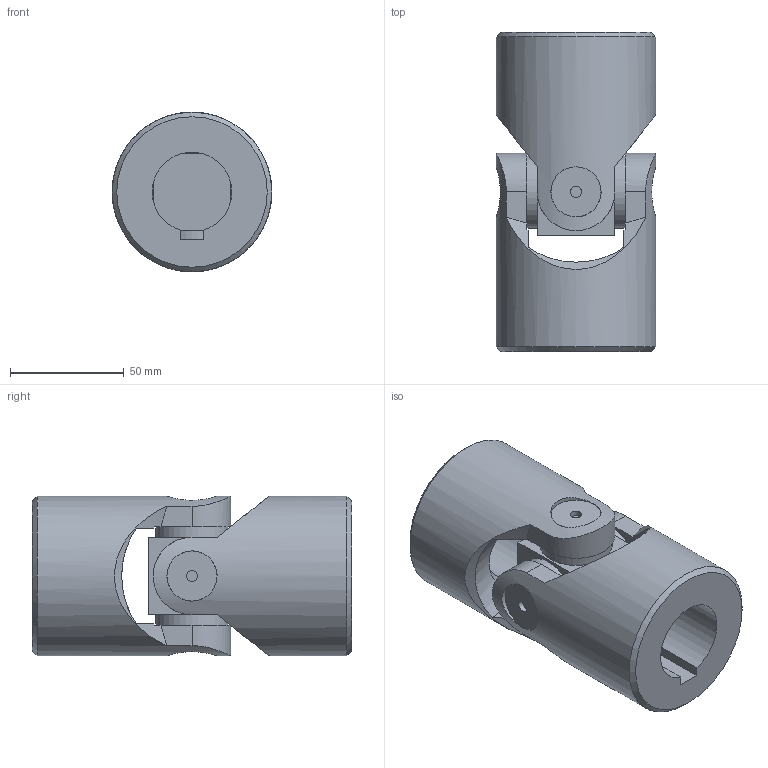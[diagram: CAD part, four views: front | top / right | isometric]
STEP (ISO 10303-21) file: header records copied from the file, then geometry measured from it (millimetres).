
FILE_DESCRIPTION(/* description */ (''),/* implementation_level */ '2;1');
FILE_NAME(/* name */ '\\SRV2016\Societa\Stefano\Disegni 3D\Dis. Clienti\0000Catalogo 3D\01Singoli G-GB\7G-1C_SG0S351C.stp',/* time_stamp */ '2021-11-10T11:24:40+01:00',/* author */ ('acquisti'),/* organization */ (''),/* preprocessor_version */ 'ST-DEVELOPER v15.6',/* originating_system */ 'Autodesk Inventor 2015',/* authorisation */ '');
FILE_SCHEMA (('AUTOMOTIVE_DESIGN { 1 0 10303 214 3 1 1 }'));
Length unit declared in the file: millimetre
Products named in the file (4): 7G SFE; 7G MOS; 7G MOC; Assieme1
Assembly tree (3 placements, depth 2):
  Assieme1
    7G SFE
    7G MOS
    7G MOC
Bounding box: 70 x 140 x 70 mm (x, y, z)
Volume: 358374.8 mm3; surface area: 62780.3 mm2
Topology: 3 solids, 3 shells, 75 faces, 181 edges, 122 vertices
Faces by surface type: plane 39, cylinder 22, cone 12, torus 2
Full cylindrical faces by diameter (mm): 5 x4, 22 x4, 32 x4, 35 x1, 40 x1, 70 x2
Entity records: 2622 total; most frequent: CARTESIAN_POINT 935, DIRECTION 321, ORIENTED_EDGE 318, EDGE_CURVE 159, AXIS2_PLACEMENT_3D 138, VERTEX_POINT 121, EDGE_LOOP 110, FACE_OUTER_BOUND 75
